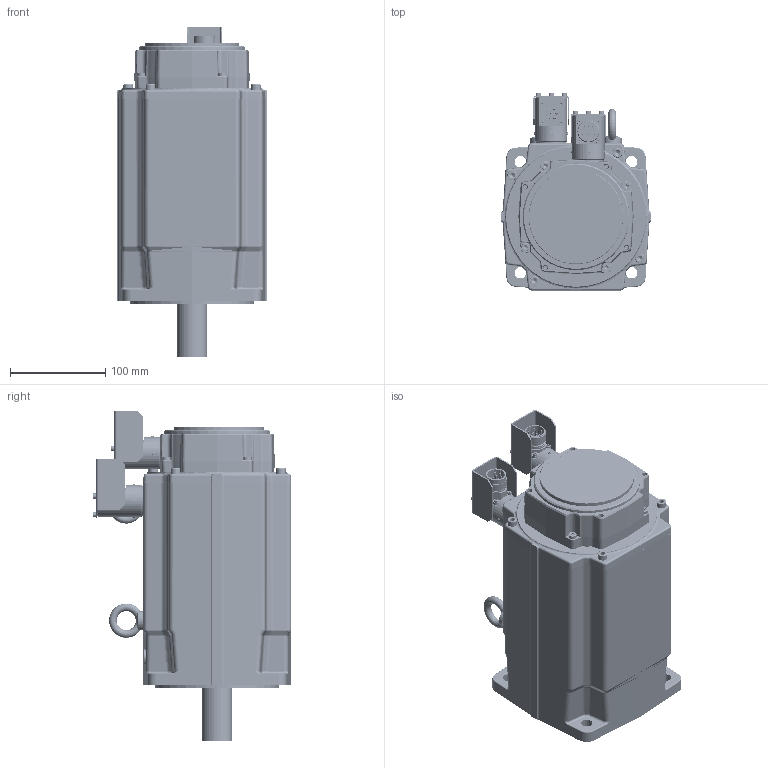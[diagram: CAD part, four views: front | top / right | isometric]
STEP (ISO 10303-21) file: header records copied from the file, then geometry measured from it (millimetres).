
FILE_DESCRIPTION((''),'2;1');
FILE_NAME('EY840EAR7010_ASM','2016-11-14T',('pf73167'),(''),'PRO/ENGINEER BY PARAMETRIC TECHNOLOGY CORPORATION, 2009400','PRO/ENGINEER BY PARAMETRIC TECHNOLOGY CORPORATION, 2009400','');
FILE_SCHEMA(('CONFIG_CONTROL_DESIGN'));
Length unit declared in the file: millimetre
Products named in the file (52): 344441P0017; 5116P1319; 1150P0512; 301026P0003; 344463P0002; 344232P0003; 344212P0003; 344232P0003_ASM; 344461R0002_ASM; 5116P1327; 1711P0002; 1640P0001; 5340P0036; 344440P0002; 344231P0003; BOB_344465R4000; 344465R4000_ASM; 344466R4000_ASM; SURMOULAGE_344467R4001; 344467R4001_ASM; 5320P0029; 1150P0610; 1613P0034; 1613P0035; 282280P0012; 220005P1002; 344509P0001; 1643P0104; 1143P0405; 5340P0071; 344191P0021; 1190P0001; 6942P0012; 1143P0510; 345359P0002; 5340P0124; 5340P0125; 1150P0204; 345359P0001; 1170P0042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
Assembly tree (117 placements, depth 5):
  EY840EAR7010_ASM
    344441P0017
    5116P1319
    1150P0512  x3
    301026P0003
    344461R0002_ASM
      344463P0002
      344232P0003_ASM
        344232P0003
        344212P0003  x2
    5116P1327
    1711P0002
    1640P0001  x3
    5340P0036
    344467R4001_ASM
      344440P0002
      344466R4000_ASM
        344465R4000_ASM
          344231P0003
          BOB_344465R4000
      SURMOULAGE_344467R4001
    5320P0029
    1150P0610  x4
    1613P0034  x2
    1613P0035  x2
    282280P0012
    220005P1002
    344509P0001
    1643P0104  x3
    1143P0405  x3
    5340P0071
    344191P0021
    1190P0001  x2
    6942P0012
    1143P0510  x4
    345359R1010_800_ASM
      345359P0002
      5340P0124
      5340P0125
      1150P0204  x8
      345359P0001
      1170P0042  x4
      220132P1010_ASM
        220132P1010_0001
        220132P1010_0002
        220132P0111  x4
        220132P0120  x3
      345359P0003
      1150P0305  x3
    345359R1020_800_ASM
      345359P0002
      5340P0124
      5340P0125
      1150P0204  x8
      345359P0001
      1170P0042  x4
      220132P1020
      220132P0112  x12
      345359P0003
      1150P0305  x3
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Bounding box: 157 x 207.7 x 346 mm (x, y, z)
Volume: 4511890.4 mm3; surface area: 986652.4 mm2
Topology: 116 solids, 145 shells, 6064 faces, 14203 edges, 8668 vertices
Faces by surface type: plane 2142, cylinder 1938, cone 916, bspline 659, torus 357, sphere 52
Entity records: 152228 total; most frequent: CARTESIAN_POINT 51591, ORIENTED_EDGE 20968, DIRECTION 20281, EDGE_CURVE 10484, AXIS2_PLACEMENT_3D 7612, VERTEX_POINT 6578, VECTOR 5057, LINE 5057
